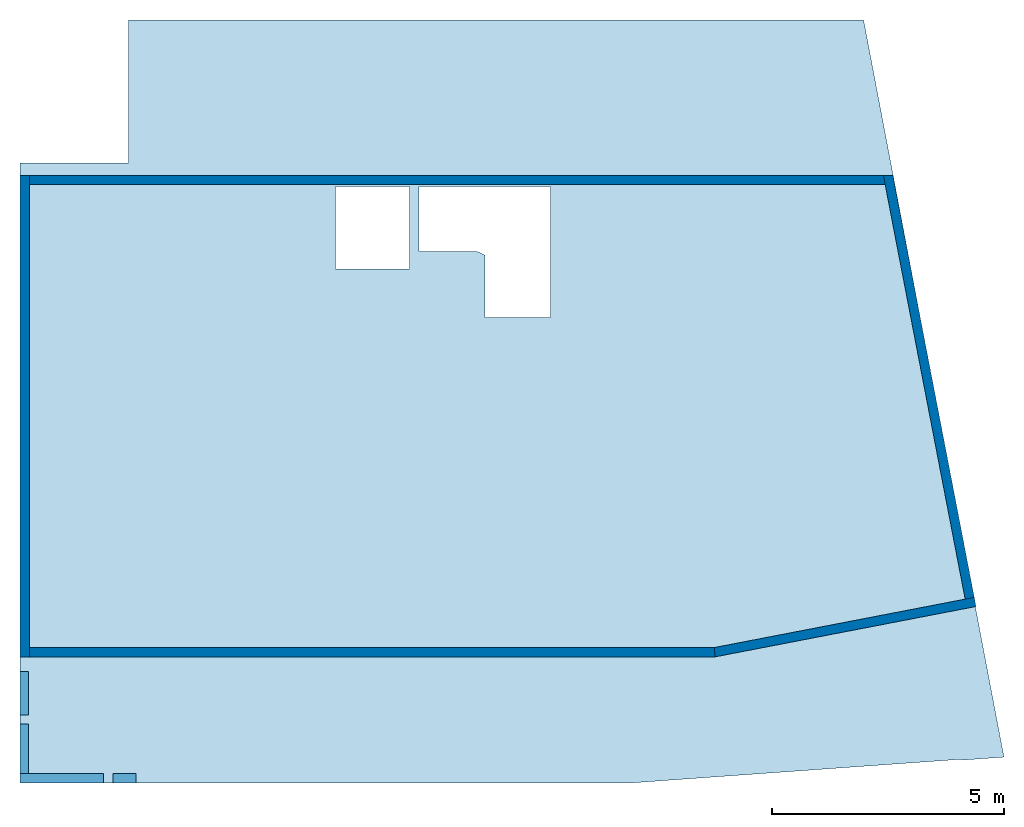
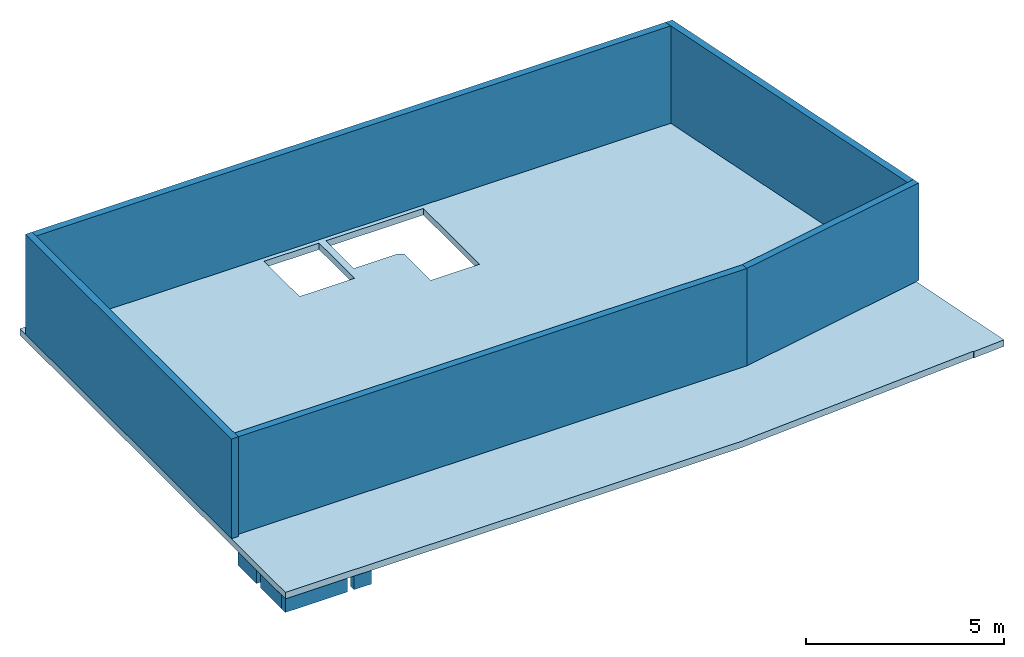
# One storey: 5 walls, 4 beams, 1 slab, 2 openings.
"""IFC2X3 building model written with IfcOpenShell, lengths in centimetres."""

from ifc_helpers import new_model, entity, si_unit, converted_unit, derived_unit, direction, frame, frame_2d, origin, place, context, subcontext, project, spatial, polyline, rectangle, outline, extrude, material, layer, layer_set, layer_usage, type_object, element, save


model = new_model("IFC2X3")

# Units and contexts
model_context = context("Model", 3, precision=0.001, world=origin(), true_north=direction((6.12303176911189e-17, 1.0)))
body_context = subcontext(model_context, "Body", "Model", "MODEL_VIEW")
ifc_project = project(units=[si_unit("LENGTHUNIT", "METRE", prefix="CENTI"), si_unit("AREAUNIT", "SQUARE_METRE"), si_unit("VOLUMEUNIT", "CUBIC_METRE"), converted_unit("PLANEANGLEUNIT", "DEGREE", entity("IfcRatioMeasure", 0.0174532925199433), si_unit("PLANEANGLEUNIT", "RADIAN"), dimensions=[0, 0, 0, 0, 0, 0, 0]), si_unit("MASSUNIT", "GRAM", prefix="KILO"), si_unit("TIMEUNIT", "SECOND"), si_unit("FREQUENCYUNIT", "HERTZ"), si_unit("THERMODYNAMICTEMPERATUREUNIT", "DEGREE_CELSIUS"), derived_unit("THERMALTRANSMITTANCEUNIT", [(si_unit("MASSUNIT", "GRAM", prefix="KILO"), 1), (si_unit("THERMODYNAMICTEMPERATUREUNIT", "KELVIN"), -1), (si_unit("TIMEUNIT", "SECOND"), -3)]), derived_unit("VOLUMETRICFLOWRATEUNIT", [(si_unit("LENGTHUNIT", "METRE"), 3), (si_unit("TIMEUNIT", "SECOND"), -1)]), si_unit("ELECTRICCURRENTUNIT", "AMPERE"), si_unit("ELECTRICVOLTAGEUNIT", "VOLT"), si_unit("POWERUNIT", "WATT"), si_unit("FORCEUNIT", "NEWTON"), si_unit("ILLUMINANCEUNIT", "LUX"), si_unit("LUMINOUSFLUXUNIT", "LUMEN"), si_unit("LUMINOUSINTENSITYUNIT", "CANDELA"), derived_unit("USERDEFINED", [(si_unit("MASSUNIT", "GRAM", prefix="KILO"), -1), (si_unit("LENGTHUNIT", "METRE"), -2), (si_unit("TIMEUNIT", "SECOND"), 3), (si_unit("LUMINOUSFLUXUNIT", "LUMEN"), 1)]), derived_unit("LINEARVELOCITYUNIT", [(si_unit("LENGTHUNIT", "METRE"), 1), (si_unit("TIMEUNIT", "SECOND"), -1)]), si_unit("PRESSUREUNIT", "PASCAL"), derived_unit("USERDEFINED", [(si_unit("LENGTHUNIT", "METRE"), -2), (si_unit("MASSUNIT", "GRAM", prefix="KILO"), 1), (si_unit("TIMEUNIT", "SECOND"), -2)])], contexts=[model_context])

# Site, building, storey
site_placement = place(None, origin())
site = spatial("IfcSite", under=ifc_project, at=site_placement, Name="Default", CompositionType="ELEMENT")
building_placement = place(site_placement, origin())
building = spatial("IfcBuilding", under=site, at=building_placement, CompositionType="ELEMENT")
storey_placement = place(building_placement, frame((0.0, 0.0, 821.0)))
storey = spatial("IfcBuildingStorey", under=building, at=storey_placement, Name="R+3", CompositionType="ELEMENT", Elevation=821.0)

# Beams
ifc_material = material(Name="Béton_C25/30")
beam_1_placement = place(storey_placement, frame((1126.79142480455, 23217.301413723, 0.0), z_axis=(0.0, 0.0, 1.0), x_axis=(-1.0, 0.0, 0.0)))
element("IfcBeam", 1, at=beam_1_placement, inside=storey, material=ifc_material, Name="BB_POUTRE RECTANGULAIRE:20x62", ObjectType="BB_POUTRE RECTANGULAIRE:20x62", context=body_context, shape_type="SweptSolid", body=[
    extrude(rectangle(XDim=42.0000000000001, YDim=20.0000000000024, at=frame_2d((5.50670620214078e-14, -1.73283609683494e-12), x_axis=(1.0, 0.0))), frame((0.0, 0.0, -48.0), z_axis=(1.0, 0.0, 0.0), x_axis=(0.0, 0.0, -1.0)), (0.0, 0.0, 1.0), 50.0000000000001),
])
beam_2_placement = place(storey_placement, frame((1056.79142480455, 23217.301413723, 0.0), z_axis=(0.0, 0.0, 1.0), x_axis=(-1.0, 0.0, 0.0)))
element("IfcBeam", 2, at=beam_2_placement, inside=storey, material=ifc_material, Name="BB_POUTRE RECTANGULAIRE:20x62", ObjectType="BB_POUTRE RECTANGULAIRE:20x62", context=body_context, shape_type="SweptSolid", body=[
    extrude(rectangle(XDim=42.0000000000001, YDim=20.0000000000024, at=frame_2d((5.50670620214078e-14, 0.0), x_axis=(1.0, 0.0))), frame((0.0, 0.0, -48.0), z_axis=(1.0, 0.0, 0.0), x_axis=(0.0, 0.0, -1.0)), (0.0, 0.0, 1.0), 180.405535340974),
])
beam_3_placement = place(storey_placement, frame((885.385889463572, 23344.0596457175, 0.0), z_axis=(0.0, 0.0, 1.0), x_axis=(0.0, -1.0, 0.0)))
element("IfcBeam", 3, at=beam_3_placement, inside=storey, material=ifc_material, Name="BB_POUTRE RECTANGULAIRE:18x62", ObjectType="BB_POUTRE RECTANGULAIRE:18x62", context=body_context, shape_type="SweptSolid", body=[
    extrude(rectangle(XDim=42.0000000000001, YDim=18.0000000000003, at=frame_2d((5.50670620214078e-14, -5.41788836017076e-14), x_axis=(1.0, 0.0))), frame((10.0, 0.0, -48.0), z_axis=(1.0, 0.0, 0.0), x_axis=(0.0, 0.0, -1.0)), (0.0, 0.0, 1.0), 106.758231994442),
])
beam_4_placement = place(storey_placement, frame((885.385889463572, 23447.5596457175, 0.0), z_axis=(0.0, 0.0, 1.0), x_axis=(0.0, -1.0, 0.0)))
element("IfcBeam", 4, at=beam_4_placement, inside=storey, material=ifc_material, Name="BB_POUTRE RECTANGULAIRE:18x62", ObjectType="BB_POUTRE RECTANGULAIRE:18x62", context=body_context, shape_type="SweptSolid", body=[
    extrude(rectangle(XDim=42.0000000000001, YDim=18.0000000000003, at=frame_2d((5.50670620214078e-14, -5.41788836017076e-14), x_axis=(1.0, 0.0))), frame((0.258231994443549, 0.0, -48.0), z_axis=(1.0, 0.0, 0.0), x_axis=(0.0, 0.0, -1.0)), (0.0, 0.0, 1.0), 93.2417680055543),
])

# Slab, openings
ifc_layer_1 = layer(ifc_material, 20.0)
ifc_layer_set_1 = layer_set([ifc_layer_1], Name="Sol:DALLE_20_C25/30")
ifc_layer_usage_1 = layer_usage(ifc_layer_set_1, "AXIS3", "POSITIVE", 0.0)
slab_placement = place(storey_placement, frame((876.385889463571, 23207.301413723, -27.0)))
slab = element("IfcSlab", 5, at=slab_placement, inside=storey, material=ifc_layer_usage_1, Name="Sol:DALLE_20_C25/30", ObjectType="Sol:DALLE_20_C25/30", PredefinedType="FLOOR", context=body_context, shape_type="SweptSolid", body=[
    extrude(outline(polyline([(1062.36368202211, -583.556623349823), (1062.36368202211, 515.24837176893), (828.338355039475, 515.24837176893), (828.338355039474, 823.556623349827), (-530.038704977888, 823.556623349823), (-759.245506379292, 823.556623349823), (-1062.36368202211, -768.154104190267), (-971.13983172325, -774.692290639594), (-970.996838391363, -772.697180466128), (-542.097026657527, -803.437243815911), (-261.381987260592, -823.556623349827), (812.363682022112, -823.55662334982), (1062.36368202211, -823.55662334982), (1062.36368202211, -583.556623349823)])), frame((1062.36368202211, 823.556623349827, 20.0), z_axis=(0.0, 0.0, -1.0), x_axis=(-1.0, 0.0, 0.0)), (0.0, 0.0, 1.0), 20.0),
])
opening_1_placement = place(storey_placement, frame((876.385889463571, 23207.301413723, -27.0)))
element("IfcOpeningElement", 6, at=opening_1_placement, cuts=slab, ObjectType="Opening", context=body_context, shape_type="SweptSolid", body=[
    extrude(rectangle(XDim=178.833570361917, YDim=160.000244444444, at=frame_2d((300.957549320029, 374.864836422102), x_axis=(0.0, 1.0))), frame((1062.36368202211, 823.556623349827, 20.0), z_axis=(0.0, 0.0, -1.0), x_axis=(-1.0, 0.0, 0.0)), (0.0, 0.0, 1.0), 20.0),
])
opening_2_placement = place(storey_placement, frame((876.385889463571, 23207.301413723, -27.0)))
element("IfcOpeningElement", 7, at=opening_2_placement, cuts=slab, ObjectType="Opening", context=body_context, shape_type="SweptSolid", body=[
    extrude(outline(polyline([(200.957427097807, 323.67140678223), (200.957427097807, 464.281621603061), (-83.0430373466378, 464.281621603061), (-83.0430373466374, 181.447892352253), (58.8352205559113, 181.447892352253), (58.835220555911, 316.0642780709), (75.148760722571, 323.67140678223), (200.957427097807, 323.67140678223)])), frame((1062.36368202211, 823.556623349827, 20.0), z_axis=(0.0, 0.0, -1.0), x_axis=(-1.0, 0.0, 0.0)), (0.0, 0.0, 1.0), 20.0),
])

# Walls
ifc_layer_2 = layer(ifc_material, 20.0)
ifc_layer_set_2 = layer_set([ifc_layer_2], Name="Mur de base:VOILE_20_C25/30")
ifc_layer_usage_2 = layer_usage(ifc_layer_set_2, "AXIS2", "NEGATIVE", 10.0)
wall_type = type_object("IfcWallType", Name="Mur de base:VOILE_20_C25/30", PredefinedType="STANDARD", material=ifc_layer_set_2)
wall_1_placement = place(storey_placement, frame((886.385889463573, 24519.1237059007, -7.0), z_axis=(0.0, 0.0, 1.0), x_axis=(0.0, -1.0, 0.0)))
element("IfcWallStandardCase", 8, at=wall_1_placement, inside=storey, type_object=wall_type, material=ifc_layer_usage_2, Name="Mur de base:VOILE_20_C25/30", ObjectType="Mur de base:VOILE_20_C25/30", context=body_context, shape_type="SweptSolid", body=[
    extrude(rectangle(XDim=1039.82229217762, YDim=20.0, at=frame_2d((519.911146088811, 4.44089209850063e-15), x_axis=(-1.0, 0.0))), origin(), (0.0, 0.0, 1.0), 307.0),
])
ifc_layer_usage_3 = layer_usage(ifc_layer_set_2, "AXIS2", "NEGATIVE", 10.0)
wall_2_placement = place(storey_placement, frame((896.385889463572, 23489.301413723, 0.0)))
element("IfcWallStandardCase", 9, at=wall_2_placement, inside=storey, type_object=wall_type, material=ifc_layer_usage_3, Name="Mur de base:VOILE_20_C25/30", ObjectType="Mur de base:VOILE_20_C25/30", context=body_context, shape_type="SweptSolid", body=[
    extrude(outline(polyline([(1480.95627824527, -10.0), (1479.04372175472, 10.0), (0.0, 10.0), (0.0, -10.0), (1480.95627824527, -10.0)])), origin(), (0.0, 0.0, 1.0), 300.0),
])
ifc_layer_usage_4 = layer_usage(ifc_layer_set_2, "AXIS2", "NEGATIVE", 10.0)
wall_3_placement = place(storey_placement, frame((2375.44694244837, 23489.1201774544, 0.0), z_axis=(0.0, 0.0, 1.0), x_axis=(0.981876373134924, 0.189522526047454, 0.0)))
element("IfcWallStandardCase", 10, at=wall_3_placement, inside=storey, type_object=wall_type, material=ifc_layer_usage_4, Name="Mur de base:VOILE_20_C25/30", ObjectType="Mur de base:VOILE_20_C25/30", context=body_context, shape_type="SweptSolid", body=[
    extrude(outline(polyline([(573.830082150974, -10.0), (573.830082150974, 10.0), (553.830082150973, 10.0), (1.91255649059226, 10.0), (0.0, -10.0), (573.830082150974, -10.0)])), origin(), (0.0, 0.0, 1.0), 300.0),
])
ifc_layer_usage_5 = layer_usage(ifc_layer_set_2, "AXIS2", "NEGATIVE", 10.0)
wall_4_placement = place(storey_placement, frame((2927.16315331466, 23605.7974426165, 0.0), z_axis=(0.0, 0.0, 1.0), x_axis=(-0.189522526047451, 0.981876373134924, 0.0)))
element("IfcWallStandardCase", 11, at=wall_4_placement, inside=storey, type_object=wall_type, material=ifc_layer_usage_5, Name="Mur de base:VOILE_20_C25/30", ObjectType="Mur de base:VOILE_20_C25/30", context=body_context, shape_type="SweptSolid", body=[
    extrude(outline(polyline([(928.254373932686, -10.0), (932.114789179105, 10.0), (911.745626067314, 10.0), (0.0, 10.0), (0.0, -10.0), (928.254373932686, -10.0)])), origin(), (0.0, 0.0, 1.0), 300.0),
])
ifc_layer_usage_6 = layer_usage(ifc_layer_set_2, "AXIS2", "NEGATIVE", 10.0)
wall_5_placement = place(storey_placement, frame((2744.54805541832, 24509.1237059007, 0.0), z_axis=(0.0, 0.0, 1.0), x_axis=(-1.0, 0.0, 0.0)))
element("IfcWallStandardCase", 12, at=wall_5_placement, inside=storey, type_object=wall_type, material=ifc_layer_usage_6, Name="Mur de base:VOILE_20_C25/30", ObjectType="Mur de base:VOILE_20_C25/30", context=body_context, shape_type="SweptSolid", body=[
    extrude(outline(polyline([(1848.16216595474, -10.0), (1848.16216595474, 10.0), (0.0, 10.0), (3.86041524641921, -10.0), (1848.16216595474, -10.0)])), origin(), (0.0, 0.0, 1.0), 300.0),
])

save(model, "model.ifc")
